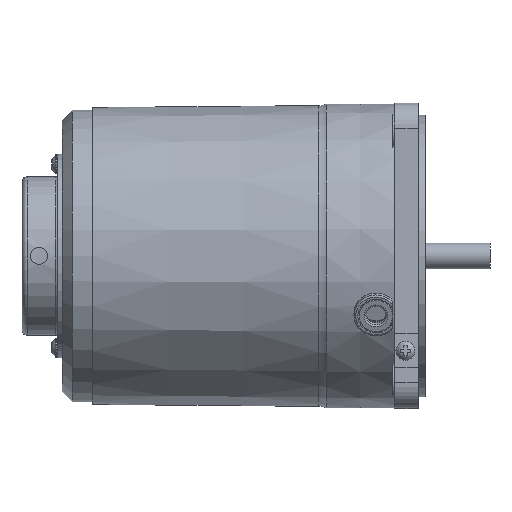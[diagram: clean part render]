
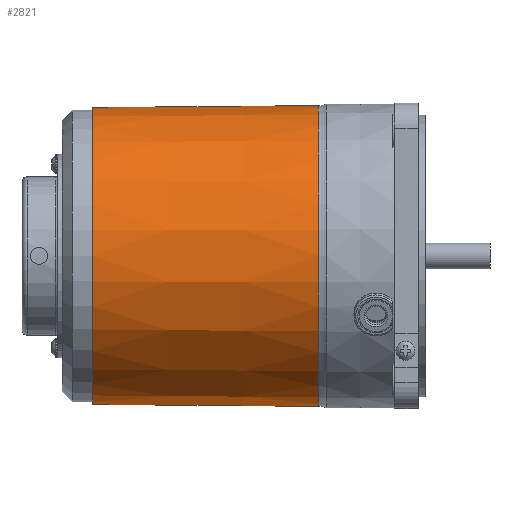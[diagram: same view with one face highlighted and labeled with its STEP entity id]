
A CAD part, top view. The second image highlights one B-rep face of the part: STEP entity #2821.
In plain terms, the highlighted conical face has half-angle 0.48 degrees and reference radius 44.029 mm.
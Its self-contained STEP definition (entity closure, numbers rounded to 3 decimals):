
#14=CONICAL_SURFACE('',#3039,44.029,0.008);
#287=LINE('',#4399,#504);
#504=VECTOR('',#3458,44.029);
#787=FACE_OUTER_BOUND('',#956,.T.);
#956=EDGE_LOOP('',(#2083,#2084,#2085,#2086,#2087));
#1129=CIRCLE('',#3037,44.308);
#1130=CIRCLE('',#3038,44.308);
#1131=CIRCLE('',#3040,43.75);
#1293=VERTEX_POINT('',#4392);
#1294=VERTEX_POINT('',#4394);
#1295=VERTEX_POINT('',#4398);
#1589=EDGE_CURVE('',#1293,#1294,#1129,.T.);
#1590=EDGE_CURVE('',#1294,#1293,#1130,.T.);
#1591=EDGE_CURVE('',#1294,#1295,#287,.T.);
#1592=EDGE_CURVE('',#1295,#1295,#1131,.T.);
#2083=ORIENTED_EDGE('',*,*,#1590,.F.);
#2084=ORIENTED_EDGE('',*,*,#1591,.T.);
#2085=ORIENTED_EDGE('',*,*,#1592,.T.);
#2086=ORIENTED_EDGE('',*,*,#1591,.F.);
#2087=ORIENTED_EDGE('',*,*,#1589,.F.);
#2821=ADVANCED_FACE('',(#787),#14,.T.);
#3037=AXIS2_PLACEMENT_3D('',#4395,#3452,#3453);
#3038=AXIS2_PLACEMENT_3D('',#4396,#3454,#3455);
#3039=AXIS2_PLACEMENT_3D('',#4397,#3456,#3457);
#3040=AXIS2_PLACEMENT_3D('',#4400,#3459,#3460);
#3452=DIRECTION('center_axis',(1.,0.,0.));
#3453=DIRECTION('ref_axis',(0.,1.,0.));
#3454=DIRECTION('center_axis',(1.,0.,0.));
#3455=DIRECTION('ref_axis',(0.,1.,0.));
#3456=DIRECTION('center_axis',(1.,0.,0.));
#3457=DIRECTION('ref_axis',(0.,1.,0.));
#3458=DIRECTION('',(-1.,0.008,0.));
#3459=DIRECTION('center_axis',(1.,0.,0.));
#3460=DIRECTION('ref_axis',(0.,1.,0.));
#4392=CARTESIAN_POINT('',(75.559,0.,44.308));
#4394=CARTESIAN_POINT('',(75.559,-44.308,0.));
#4395=CARTESIAN_POINT('Origin',(75.559,0.,0.));
#4396=CARTESIAN_POINT('Origin',(75.559,0.,0.));
#4397=CARTESIAN_POINT('Origin',(42.279,0.,0.));
#4398=CARTESIAN_POINT('',(9.,-43.75,0.));
#4399=CARTESIAN_POINT('',(42.279,-44.029,0.));
#4400=CARTESIAN_POINT('Origin',(9.,0.,0.));
